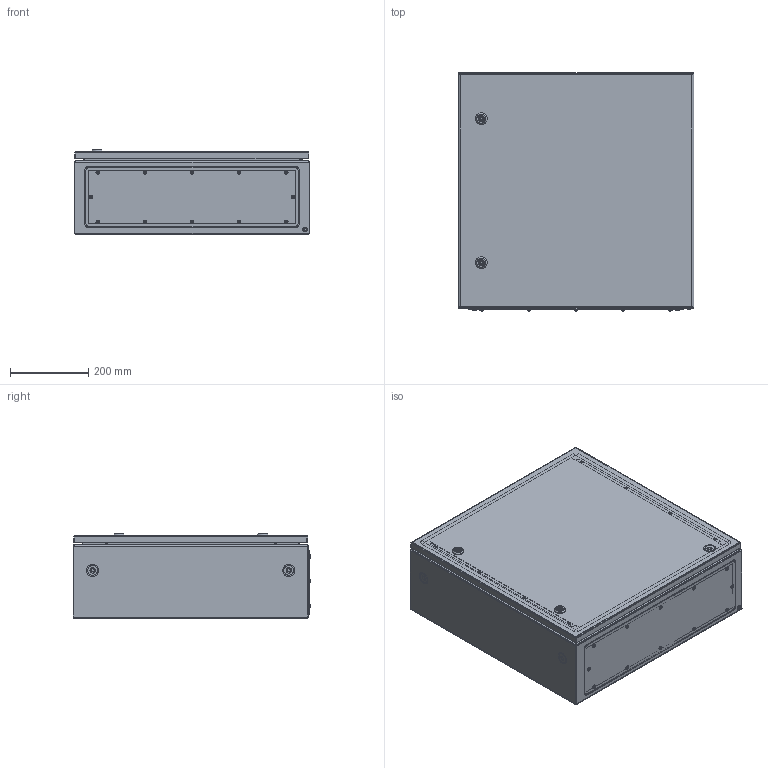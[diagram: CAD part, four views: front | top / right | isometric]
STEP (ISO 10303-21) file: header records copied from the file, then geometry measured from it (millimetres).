
FILE_DESCRIPTION (( 'STEP AP214' ), '1' );
FILE_NAME ('CCS 60.60.21 仃圄 觐祜嚓蝽.STEP', '2025-09-09T19:27:40', ( '' ), ( '' ), 'SwSTEP 2.0', 'SolidWorks 2019', '' );
FILE_SCHEMA (( 'AUTOMOTIVE_DESIGN' ));
Length unit declared in the file: millimetre
Products named in the file (28): KIT_Øòèôò_ô5_Ìîäóëü; Ïåòëÿ ïðèâàðíàÿ ÷àñòü; Âèíò ðåçüáîâûäàâëèâàþùèé ñ ïîëóïîòàéíîé ãîëîâêîé Ì5õ12; Øïèëüêà çàçåìëåíèÿ Ì6õ17,5_˜¯¨«ìª  § §¥¬«¥­¨ï Œ6å17,5 á ª®«¯ çª®¬; Ãàéêà Ì8 DIN 934; Øïèëüêà çàçåìëåíèÿ Ì6õ17,5_˜¯¨«ìª  § §¥¬«¥­¨ï Œ6å17,5; ßçû÷îê çàìêà LC 5DB.S; CCS X.Y.02.001 拟屦黖CCS 60.60; CCS 60.60.21 仃圄 觐祜嚓蝽; pan head cross recess screw_din_DIN EN ISO 7045 - M5 x 6 - Z - 6N; PKV Y.15 相礤朦 赅徨朦眍泐 忖钿郷PKV 60(15); Essentra_d9.3_055009300003; Ïåòëÿ KIT_Ìîäóëü_êîðïóñíàÿ ÷àñòü â ñáîðå; hex flange nut_din_Hexagon Flange Nut DIN 6923 - M8 - N; Essentra_d6,3_1287228; CCS X.Y.02.000蚜 拟屦黖CCS 60.60; CCS X.002 扰鍙欙樥燲CCS 60.002; CCS X.Y.Z.01.000捘 扻豵鵨_CCS 60.60.21; Øïèëüêà Ì8õ25; Çàìîê LC 5DB.S_‡ ¬®ª LC 5DB.S_45mm; Ïåòëÿ KIT_Ìîäóëü_êîðïóñíàÿ ÷àñòü; MPC X.Y Ïàíåëü ìîíòàæíàÿ_MPC 60.60; CCS X.Y.Z.01.001 扻豵鵨_CCS 60.60.21; KIT_Çàæèìíîå êîëüöî_ïîëèîêñèìåòèëåí_ô5_EMKA 1031-U16; plain washer grade a_din_Washer DIN 125 - A 5.3; ﾇ瑟鶴 LC 5DB.S
Assembly tree (60 placements, depth 3):
  CCS 60.60.21 仃圄 觐祜嚓蝽
    CCS X.Y.Z.01.000捘 扻豵鵨_CCS 60.60.21
      CCS X.Y.Z.01.001 扻豵鵨_CCS 60.60.21
      Øïèëüêà çàçåìëåíèÿ Ì6õ17,5_˜¯¨«ìª  § §¥¬«¥­¨ï Œ6å17,5  x4
      Øïèëüêà Ì8õ25  x4
    Ïåòëÿ KIT_Ìîäóëü_êîðïóñíàÿ ÷àñòü â ñáîðå
      Ïåòëÿ KIT_Ìîäóëü_êîðïóñíàÿ ÷àñòü
      KIT_Øòèôò_ô5_Ìîäóëü
      KIT_Çàæèìíîå êîëüöî_ïîëèîêñèìåòèëåí_ô5_EMKA 1031-U16
    Ïåòëÿ KIT_Ìîäóëü_êîðïóñíàÿ ÷àñòü â ñáîðå
      Ïåòëÿ KIT_Ìîäóëü_êîðïóñíàÿ ÷àñòü
      KIT_Øòèôò_ô5_Ìîäóëü
      KIT_Çàæèìíîå êîëüöî_ïîëèîêñèìåòèëåí_ô5_EMKA 1031-U16
    CCS X.Y.02.000蚜 拟屦黖CCS 60.60
      CCS X.Y.02.001 拟屦黖CCS 60.60
      Øïèëüêà çàçåìëåíèÿ Ì6õ17,5_˜¯¨«ìª  § §¥¬«¥­¨ï Œ6å17,5 á ª®«¯ çª®¬
      CCS X.002 扰鍙欙樥燲CCS 60.002  x2
      Ïåòëÿ ïðèâàðíàÿ ÷àñòü  x2
    MPC X.Y Ïàíåëü ìîíòàæíàÿ_MPC 60.60
    PKV Y.15 相礤朦 赅徨朦眍泐 忖钿郷PKV 60(15)
    pan head cross recess screw_din_DIN EN ISO 7045 - M5 x 6 - Z - 6N  x2
    plain washer grade a_din_Washer DIN 125 - A 5.3  x2
    Ãàéêà Ì8 DIN 934  x4
    hex flange nut_din_Hexagon Flange Nut DIN 6923 - M8 - N  x4
    Âèíò ðåçüáîâûäàâëèâàþùèé ñ ïîëóïîòàéíîé ãîëîâêîé Ì5õ12  x12
    Essentra_d9.3_055009300003
    Essentra_d6,3_1287228  x2
    Çàìîê LC 5DB.S_‡ ¬®ª LC 5DB.S_45mm
      ﾇ瑟鶴 LC 5DB.S
      ßçû÷îê çàìêà LC 5DB.S
    Çàìîê LC 5DB.S_‡ ¬®ª LC 5DB.S_45mm
      ﾇ瑟鶴 LC 5DB.S
      ßçû÷îê çàìêà LC 5DB.S
Bounding box: 600 x 606.62 x 215 mm (x, y, z)
Volume: 2707939.8 mm3; surface area: 3509133.8 mm2
Topology: 58 solids, 58 shells, 2640 faces, 6586 edges, 4088 vertices
Faces by surface type: plane 1036, cylinder 977, cone 298, bspline 160, torus 128, sphere 41
Entity records: 52944 total; most frequent: CARTESIAN_POINT 20739, ORIENTED_EDGE 6392, DIRECTION 6273, EDGE_CURVE 3196, AXIS2_PLACEMENT_3D 2338, VERTEX_POINT 1983, VECTOR 1597, LINE 1597
